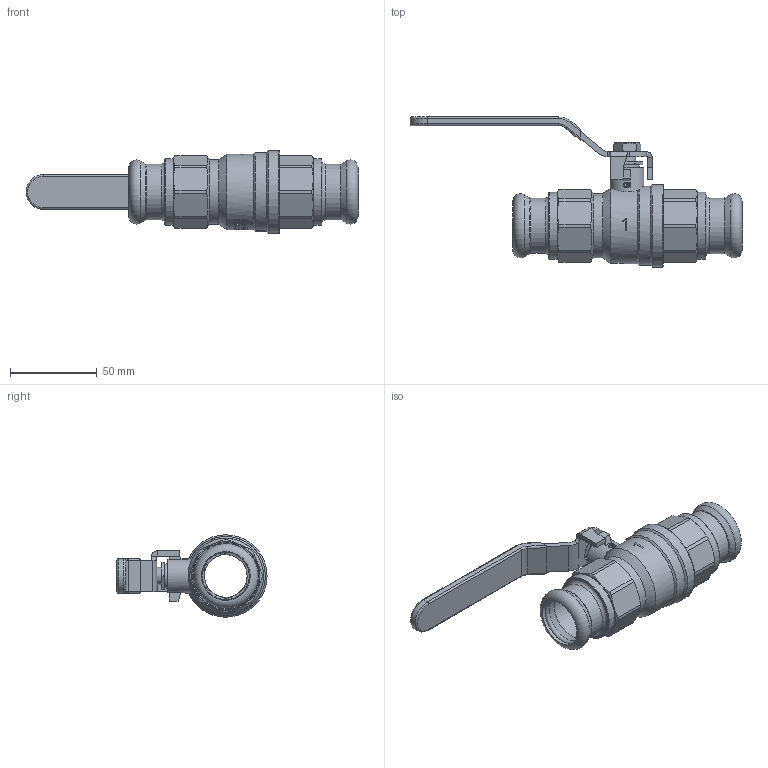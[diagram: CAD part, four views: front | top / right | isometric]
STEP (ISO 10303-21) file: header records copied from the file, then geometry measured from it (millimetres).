
FILE_DESCRIPTION((''),'2;1');
FILE_NAME('P:\Fastrack\53972_CRANE 3D\Press Fit\Fig_100PF\100-PF\28MM\Fig_100-PF-28MM.stp','2012-01-18T12:42:21',('dcole'),(''),'Autodesk Inventor 2008','Autodesk Inventor 2008','');
FILE_SCHEMA(('AUTOMOTIVE_DESIGN { 1 0 10303 214 1 1 1 1 }'));
Length unit declared in the file: millimetre
Products named in the file (1): Fig_100-PF-28MM
Bounding box: 191.2 x 86.42 x 47.5 mm (x, y, z)
Volume: 103357.2 mm3; surface area: 49126.5 mm2
Topology: 1 solids, 1 shells, 606 faces, 1914 edges, 1418 vertices
Faces by surface type: plane 295, cylinder 112, bspline 107, cone 77, torus 15
Full cylindrical faces by diameter (mm): 2 x2, 10 x1, 10.1 x2, 10.3 x1, 14 x1, 14.3 x1, 14.5 x1, 19.5 x1, 24.8 x5, 28 x4, 30.291 x2, 32 x2, 37 x1, 38.5 x2, 45.5 x1, 47.5 x1
Entity records: 49218 total; most frequent: CARTESIAN_POINT 32632, ORIENTED_EDGE 3630, DIRECTION 2688, EDGE_CURVE 1815, VERTEX_POINT 1390, AXIS2_PLACEMENT_3D 906, VECTOR 876, LINE 876
